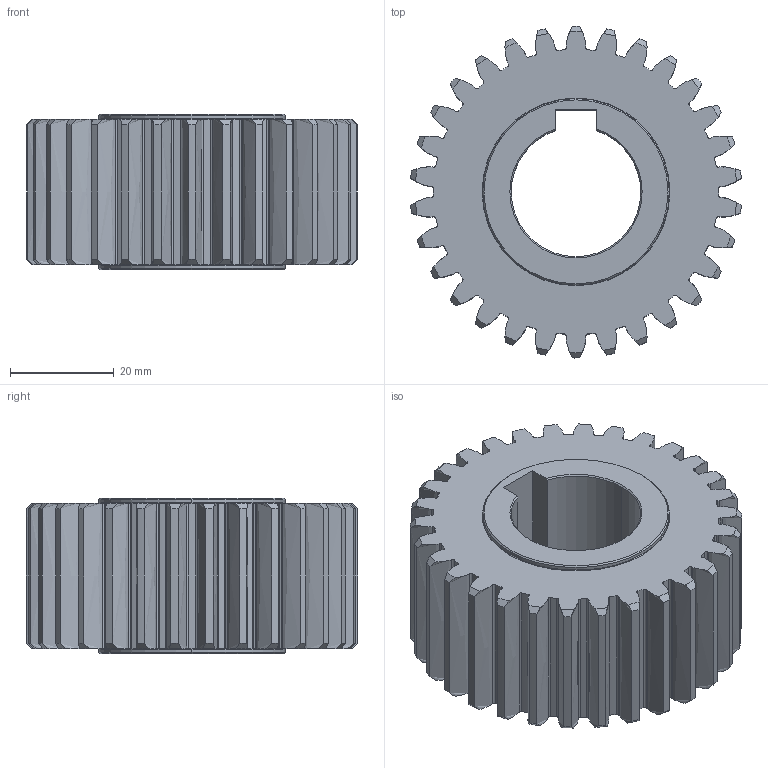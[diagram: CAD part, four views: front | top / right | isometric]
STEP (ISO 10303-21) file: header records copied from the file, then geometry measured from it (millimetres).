
FILE_DESCRIPTION (( 'STEP AP214' ), '1' );
FILE_NAME ('1SG__S020030S.STEP', '2021-08-03T07:28:45', ( '' ), ( '' ), 'SwSTEP 2.0', 'SolidWorks 2021', '' );
FILE_SCHEMA (( 'AUTOMOTIVE_DESIGN' ));
Length unit declared in the file: millimetre
Products named in the file (1): 1SG__S020030S
Bounding box: 63.79 x 64 x 30 mm (x, y, z)
Volume: 64545.8 mm3; surface area: 17867.5 mm2
Topology: 1 solids, 1 shells, 314 faces, 974 edges, 664 vertices
Faces by surface type: cylinder 113, bspline 90, cone 70, plane 37, torus 4
Entity records: 18572 total; most frequent: CARTESIAN_POINT 10215, ORIENTED_EDGE 1948, DIRECTION 1540, EDGE_CURVE 974, VERTEX_POINT 664, AXIS2_PLACEMENT_3D 585, VECTOR 370, LINE 370
